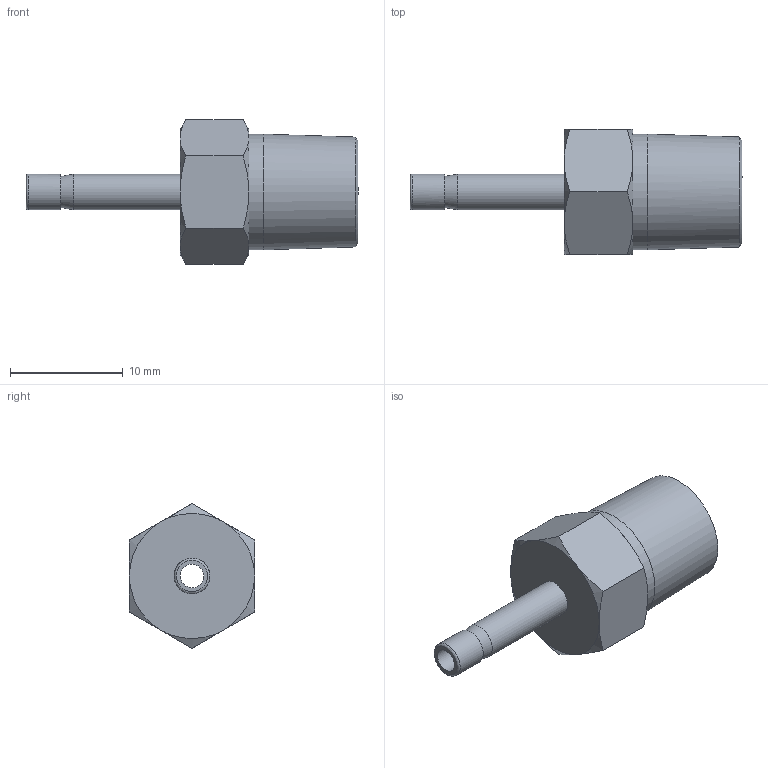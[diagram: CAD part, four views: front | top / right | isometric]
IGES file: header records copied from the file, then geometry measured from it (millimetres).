
Global section: file name: SMA-2-2N; native system: Autodesk Inventor 2016; preprocessor: unknown; author: DESIGNPC2; date: 20151221.085905; units: millimetre
Bounding box: 29.5 x 11.11 x 12.83 mm (x, y, z)
Volume: 1423.7 mm3; surface area: 1056.3 mm2
Topology: 1 solids, 1 shells, 32 faces, 78 edges, 51 vertices
Faces by surface type: bspline 32
